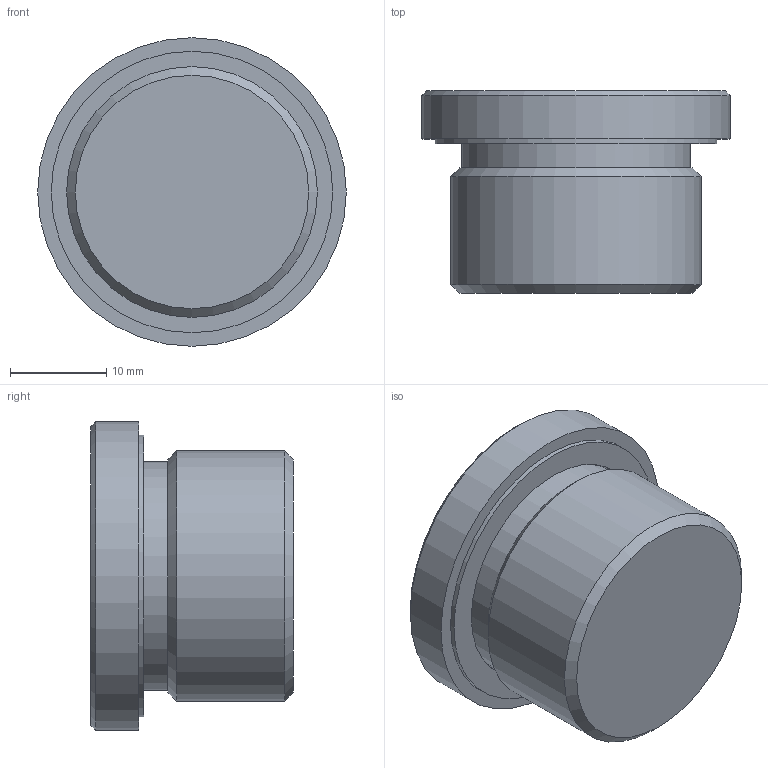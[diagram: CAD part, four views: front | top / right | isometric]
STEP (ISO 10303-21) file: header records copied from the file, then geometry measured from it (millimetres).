
FILE_DESCRIPTION( ( 'STEP AP203' ), '1' );
FILE_NAME( 'C:/Temp/Ganter_Step_05_03_2020/data/3_5/gn749/gn749_b/Threaded plug GN 749-M26x1,5-B.stp', '2020-03-12T13:41:40', ( 'License CC BY-ND 4.0' ), ( 'CADENAS' ), ' ', 'PARTsolutions', ' ' );
FILE_SCHEMA( ( 'CONFIG_CONTROL_DESIGN' ) );
Length unit declared in the file: millimetre
Products named in the file (1): _Threaded plug GN 749-M26x1,5-B
Bounding box: 32 x 21 x 32 mm (x, y, z)
Volume: 11154.1 mm3; surface area: 3915.8 mm2
Topology: 1 solids, 1 shells, 21 faces, 41 edges, 27 vertices
Faces by surface type: plane 13, cylinder 5, cone 3
Full cylindrical faces by diameter (mm): 23.7 x1, 24.1 x1, 26 x1, 29.2 x1, 32 x1
Entity records: 526 total; most frequent: DIRECTION 88, CARTESIAN_POINT 78, ORIENTED_EDGE 62, AXIS2_PLACEMENT_3D 35, EDGE_LOOP 34, EDGE_CURVE 31, FACE_OUTER_BOUND 26, VERTEX_POINT 25
